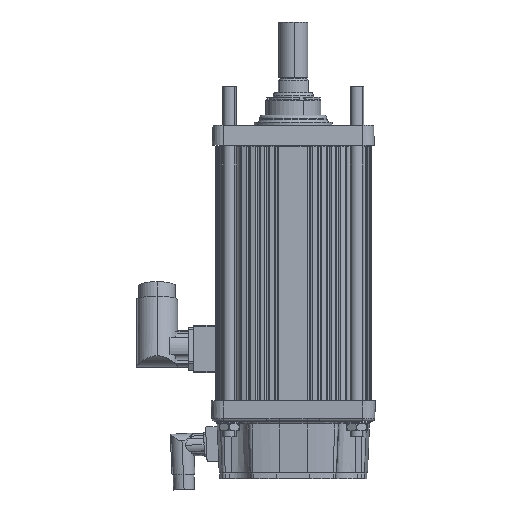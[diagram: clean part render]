
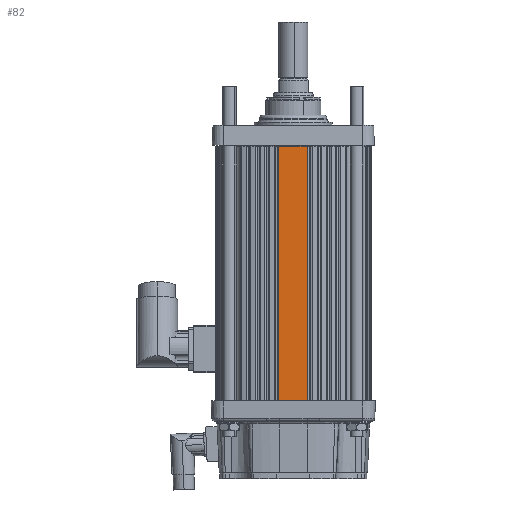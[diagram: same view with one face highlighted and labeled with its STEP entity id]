
A CAD part, left-side view. The second image highlights one B-rep face of the part: STEP entity #82.
In plain terms, the highlighted planar face has unit normal (-1, 0, 0) as drawn and (0, 1, 0) by its records, which use the part's own axes.
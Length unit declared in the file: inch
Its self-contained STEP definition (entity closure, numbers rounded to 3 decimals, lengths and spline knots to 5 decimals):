
#1 = ORIENTED_EDGE ( 'NONE', *, *, #134, .T. ) ;
#62 = VERTEX_POINT ( 'NONE', #18689 ) ;
#65 = ORIENTED_EDGE ( 'NONE', *, *, #39913, .T. ) ;
#67 = VERTEX_POINT ( 'NONE', #18608 ) ;
#69 = EDGE_LOOP ( 'NONE', ( #77, #39905, #1, #65 ) ) ;
#77 = ORIENTED_EDGE ( 'NONE', *, *, #39908, .F. ) ;
#80 = VERTEX_POINT ( 'NONE', #18717 ) ;
#82 = ADVANCED_FACE ( 'NONE', ( #18715 ), #18707, .T. ) ;
#134 = EDGE_CURVE ( 'NONE', #62, #80, #18732, .T. ) ;
#18608 = CARTESIAN_POINT ( 'NONE',  ( -0.59323, 3.365, 0. ) ) ;
#18689 = CARTESIAN_POINT ( 'NONE',  ( 0.63049, 3.365, -10.97 ) ) ;
#18703 = DIRECTION ( 'NONE',  ( -1., 0., 0. ) ) ;
#18704 = DIRECTION ( 'NONE',  ( 0., 1., 0. ) ) ;
#18705 = CARTESIAN_POINT ( 'NONE',  ( 0.63049, 3.365, -10.97 ) ) ;
#18706 = AXIS2_PLACEMENT_3D ( 'NONE', #18705, #18704, #18703 ) ;
#18707 = PLANE ( 'NONE',  #18706 ) ;
#18715 = FACE_OUTER_BOUND ( 'NONE', #69, .T. ) ;
#18717 = CARTESIAN_POINT ( 'NONE',  ( -0.59323, 3.365, -10.97 ) ) ;
#18729 = DIRECTION ( 'NONE',  ( -1., 0., 0. ) ) ;
#18730 = VECTOR ( 'NONE', #18729, 39.37008 ) ;
#18731 = CARTESIAN_POINT ( 'NONE',  ( 0.63049, 3.365, -10.97 ) ) ;
#18732 = LINE ( 'NONE', #18731, #18730 ) ;
#26894 = DIRECTION ( 'NONE',  ( 0., 0., 1. ) ) ;
#26895 = VECTOR ( 'NONE', #26894, 39.37008 ) ;
#26896 = CARTESIAN_POINT ( 'NONE',  ( -0.59323, 3.365, -10.97 ) ) ;
#26897 = LINE ( 'NONE', #26896, #26895 ) ;
#26898 = CARTESIAN_POINT ( 'NONE',  ( 0.63049, 3.365, 0. ) ) ;
#26904 = DIRECTION ( 'NONE',  ( -1., 0., 0. ) ) ;
#26905 = VECTOR ( 'NONE', #26904, 39.37008 ) ;
#26906 = CARTESIAN_POINT ( 'NONE',  ( 0.63049, 3.365, 0. ) ) ;
#26907 = LINE ( 'NONE', #26906, #26905 ) ;
#26908 = DIRECTION ( 'NONE',  ( 0., 0., 1. ) ) ;
#26909 = VECTOR ( 'NONE', #26908, 39.37008 ) ;
#26910 = CARTESIAN_POINT ( 'NONE',  ( 0.63049, 3.365, -10.97 ) ) ;
#26914 = LINE ( 'NONE', #26910, #26909 ) ;
#39905 = ORIENTED_EDGE ( 'NONE', *, *, #39907, .F. ) ;
#39907 = EDGE_CURVE ( 'NONE', #62, #39912, #26914, .T. ) ;
#39908 = EDGE_CURVE ( 'NONE', #39912, #67, #26907, .T. ) ;
#39912 = VERTEX_POINT ( 'NONE', #26898 ) ;
#39913 = EDGE_CURVE ( 'NONE', #80, #67, #26897, .T. ) ;
